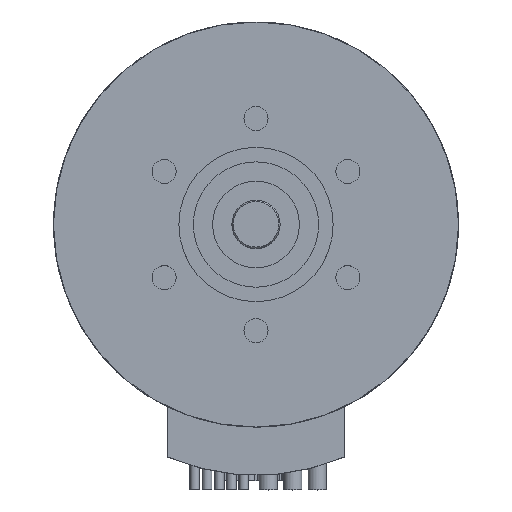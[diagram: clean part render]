
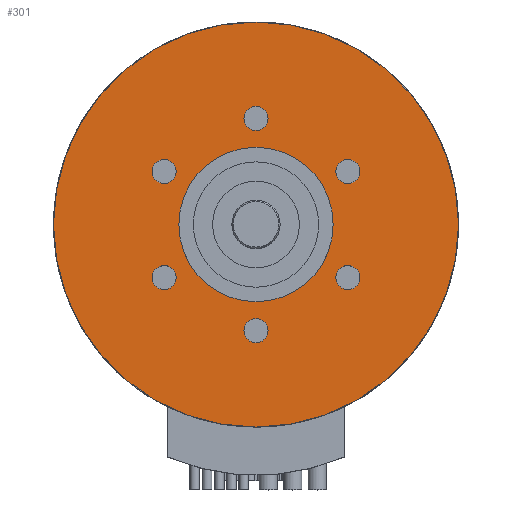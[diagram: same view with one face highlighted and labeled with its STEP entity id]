
A CAD part, top view. The second image highlights one B-rep face of the part: STEP entity #301.
In plain terms, the highlighted planar face has unit normal (0, 0, 1).
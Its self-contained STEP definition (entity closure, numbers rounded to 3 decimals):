
#100=FACE_BOUND('',#500,.T.);
#101=FACE_BOUND('',#501,.T.);
#102=FACE_BOUND('',#502,.T.);
#103=FACE_BOUND('',#503,.T.);
#104=FACE_BOUND('',#504,.T.);
#105=FACE_BOUND('',#505,.T.);
#106=FACE_BOUND('',#506,.T.);
#107=FACE_BOUND('',#507,.T.);
#216=CIRCLE('',#1399,8.);
#217=CIRCLE('',#1401,1.25);
#218=CIRCLE('',#1402,1.25);
#219=CIRCLE('',#1403,1.25);
#220=CIRCLE('',#1404,1.25);
#221=CIRCLE('',#1405,1.25);
#222=CIRCLE('',#1406,1.25);
#223=CIRCLE('',#1407,21.);
#301=ADVANCED_FACE('',(#100,#101,#102,#103,#104,#105,#106,#107),#391,.T.);
#391=PLANE('',#1408);
#500=EDGE_LOOP('',(#729));
#501=EDGE_LOOP('',(#730));
#502=EDGE_LOOP('',(#731));
#503=EDGE_LOOP('',(#732));
#504=EDGE_LOOP('',(#733));
#505=EDGE_LOOP('',(#734));
#506=EDGE_LOOP('',(#735));
#507=EDGE_LOOP('',(#736));
#729=ORIENTED_EDGE('',*,*,#1142,.T.);
#730=ORIENTED_EDGE('',*,*,#1143,.T.);
#731=ORIENTED_EDGE('',*,*,#1144,.T.);
#732=ORIENTED_EDGE('',*,*,#1145,.T.);
#733=ORIENTED_EDGE('',*,*,#1146,.T.);
#734=ORIENTED_EDGE('',*,*,#1147,.T.);
#735=ORIENTED_EDGE('',*,*,#1141,.F.);
#736=ORIENTED_EDGE('',*,*,#1148,.F.);
#1004=VERTEX_POINT('',#2145);
#1005=VERTEX_POINT('',#2148);
#1006=VERTEX_POINT('',#2150);
#1007=VERTEX_POINT('',#2152);
#1008=VERTEX_POINT('',#2154);
#1009=VERTEX_POINT('',#2156);
#1010=VERTEX_POINT('',#2158);
#1011=VERTEX_POINT('',#2160);
#1141=EDGE_CURVE('',#1004,#1004,#216,.T.);
#1142=EDGE_CURVE('',#1005,#1005,#217,.T.);
#1143=EDGE_CURVE('',#1006,#1006,#218,.T.);
#1144=EDGE_CURVE('',#1007,#1007,#219,.T.);
#1145=EDGE_CURVE('',#1008,#1008,#220,.T.);
#1146=EDGE_CURVE('',#1009,#1009,#221,.T.);
#1147=EDGE_CURVE('',#1010,#1010,#222,.T.);
#1148=EDGE_CURVE('',#1011,#1011,#223,.T.);
#1399=AXIS2_PLACEMENT_3D('',#2144,#1687,#1688);
#1401=AXIS2_PLACEMENT_3D('',#2147,#1691,#1692);
#1402=AXIS2_PLACEMENT_3D('',#2149,#1693,#1694);
#1403=AXIS2_PLACEMENT_3D('',#2151,#1695,#1696);
#1404=AXIS2_PLACEMENT_3D('',#2153,#1697,#1698);
#1405=AXIS2_PLACEMENT_3D('',#2155,#1699,#1700);
#1406=AXIS2_PLACEMENT_3D('',#2157,#1701,#1702);
#1407=AXIS2_PLACEMENT_3D('',#2159,#1703,#1704);
#1408=AXIS2_PLACEMENT_3D('',#2161,#1705,#1706);
#1687=DIRECTION('',(0.,0.,1.));
#1688=DIRECTION('',(1.,0.,0.));
#1691=DIRECTION('',(0.,0.,-1.));
#1692=DIRECTION('',(-1.,0.,0.));
#1693=DIRECTION('',(0.,0.,-1.));
#1694=DIRECTION('',(-1.,0.,0.));
#1695=DIRECTION('',(0.,0.,-1.));
#1696=DIRECTION('',(-1.,0.,0.));
#1697=DIRECTION('',(0.,0.,-1.));
#1698=DIRECTION('',(-1.,0.,0.));
#1699=DIRECTION('',(0.,0.,-1.));
#1700=DIRECTION('',(-1.,0.,0.));
#1701=DIRECTION('',(0.,0.,-1.));
#1702=DIRECTION('',(-1.,0.,0.));
#1703=DIRECTION('',(0.,0.,-1.));
#1704=DIRECTION('',(1.,0.,0.));
#1705=DIRECTION('',(0.,0.,1.));
#1706=DIRECTION('',(1.,0.,0.));
#2144=CARTESIAN_POINT('',(0.,0.,0.));
#2145=CARTESIAN_POINT('',(8.,0.,0.));
#2147=CARTESIAN_POINT('',(9.526,5.5,0.));
#2148=CARTESIAN_POINT('',(8.276,5.5,0.));
#2149=CARTESIAN_POINT('',(9.526,-5.5,0.));
#2150=CARTESIAN_POINT('',(8.276,-5.5,0.));
#2151=CARTESIAN_POINT('',(0.,-11.,0.));
#2152=CARTESIAN_POINT('',(-1.25,-11.,0.));
#2153=CARTESIAN_POINT('',(-9.526,-5.5,0.));
#2154=CARTESIAN_POINT('',(-10.776,-5.5,0.));
#2155=CARTESIAN_POINT('',(-9.526,5.5,0.));
#2156=CARTESIAN_POINT('',(-10.776,5.5,0.));
#2157=CARTESIAN_POINT('',(0.,11.,0.));
#2158=CARTESIAN_POINT('',(-1.25,11.,0.));
#2159=CARTESIAN_POINT('',(0.,0.,0.));
#2160=CARTESIAN_POINT('',(21.,0.,0.));
#2161=CARTESIAN_POINT('',(0.,0.,0.));
